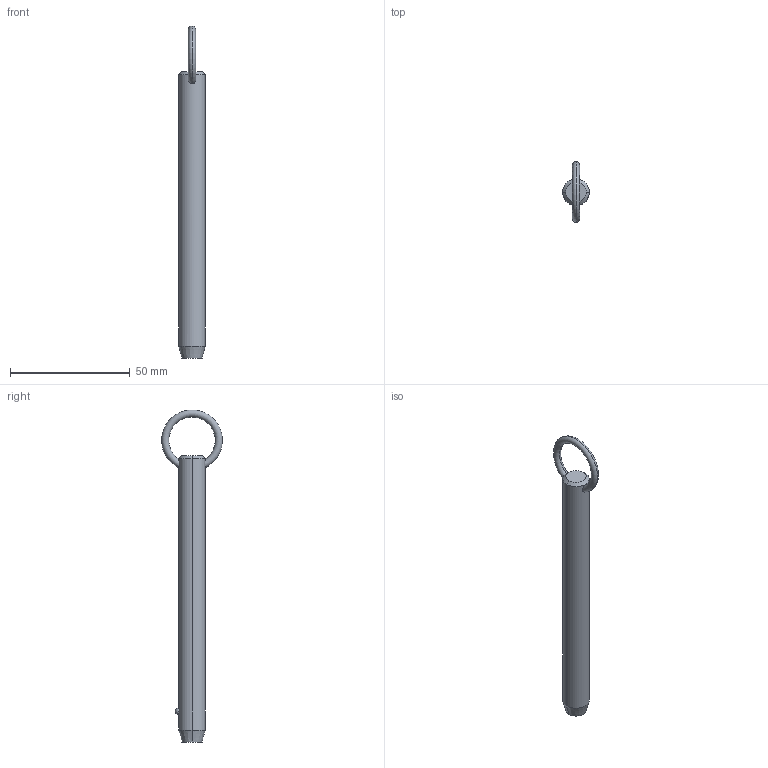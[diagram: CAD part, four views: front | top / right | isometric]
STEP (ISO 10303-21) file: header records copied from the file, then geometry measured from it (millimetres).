
FILE_DESCRIPTION (( 'STEP AP203' ), '1' );
FILE_NAME ('P1250.050-390.step', '2019-07-29T20:35:53', ( '' ), ( '' ), 'SwSTEP 2.0', 'SolidWorks 2017', '' );
FILE_SCHEMA (( 'CONFIG_CONTROL_DESIGN' ));
Length unit declared in the file: millimetre
Products named in the file (1): P1250.050-390
Bounding box: 11.1 x 25.32 x 138.65 mm (x, y, z)
Volume: 11866 mm3; surface area: 4826.8 mm2
Topology: 1 solids, 1 shells, 12 faces, 28 edges, 17 vertices
Faces by surface type: cone 4, torus 2, sphere 2, cylinder 2, plane 2
Entity records: 523 total; most frequent: CARTESIAN_POINT 190, DIRECTION 56, ORIENTED_EDGE 48, AXIS2_PLACEMENT_3D 25, EDGE_CURVE 24, EDGE_LOOP 15, VERTEX_POINT 15, FACE_OUTER_BOUND 12
